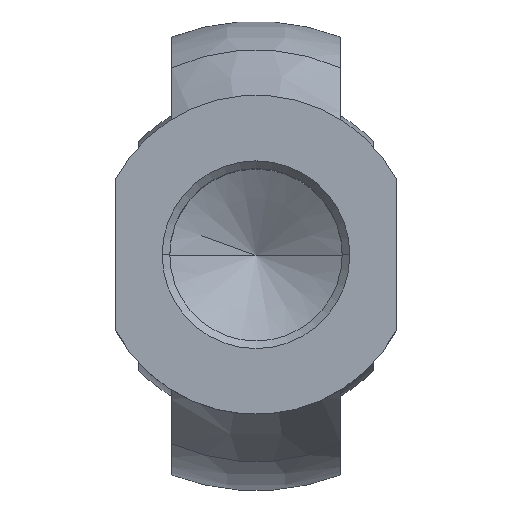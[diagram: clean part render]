
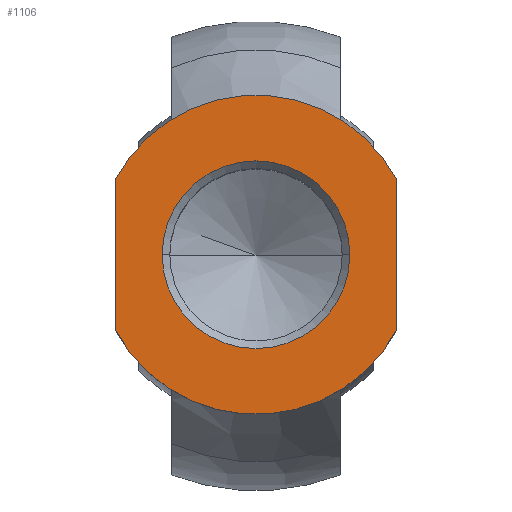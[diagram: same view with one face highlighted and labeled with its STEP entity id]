
A CAD part, top view. The second image highlights one B-rep face of the part: STEP entity #1106.
In plain terms, the highlighted planar face has unit normal (0, 0, 1).
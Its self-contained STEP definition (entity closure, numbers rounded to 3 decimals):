
#265 = CARTESIAN_POINT ( 'NONE',  ( 8.5, 0., 0. ) ) ;
#266 = AXIS2_PLACEMENT_3D ( 'NONE', #265, #315, #314 ) ;
#267 = PLANE ( 'NONE',  #266 ) ;
#282 = FACE_OUTER_BOUND ( 'NONE', #1129, .T. ) ;
#287 = FACE_BOUND ( 'NONE', #1116, .T. ) ;
#291 = CARTESIAN_POINT ( 'NONE',  ( 15., 8., 0. ) ) ;
#292 = DIRECTION ( 'NONE',  ( 0., 1., 0. ) ) ;
#293 = VECTOR ( 'NONE', #292, 1000. ) ;
#294 = CARTESIAN_POINT ( 'NONE',  ( 15., 50., 0. ) ) ;
#296 = LINE ( 'NONE', #294, #293 ) ;
#314 = DIRECTION ( 'NONE',  ( 1., 0., 0. ) ) ;
#315 = DIRECTION ( 'NONE',  ( 0., 0., 1. ) ) ;
#325 = CARTESIAN_POINT ( 'NONE',  ( 15., -8., 0. ) ) ;
#502 = DIRECTION ( 'NONE',  ( 0., 0., -1. ) ) ;
#503 = CARTESIAN_POINT ( 'NONE',  ( 0., 0., 0. ) ) ;
#504 = AXIS2_PLACEMENT_3D ( 'NONE', #503, #502, #555 ) ;
#505 = CIRCLE ( 'NONE', #504, 17. ) ;
#526 = CARTESIAN_POINT ( 'NONE',  ( -15., 8., 0. ) ) ;
#527 = CARTESIAN_POINT ( 'NONE',  ( -15., -8., 0. ) ) ;
#555 = DIRECTION ( 'NONE',  ( 1., 0., 0. ) ) ;
#581 = DIRECTION ( 'NONE',  ( 0., -1., 0. ) ) ;
#582 = VECTOR ( 'NONE', #581, 1000. ) ;
#583 = CARTESIAN_POINT ( 'NONE',  ( -15., 50., 0. ) ) ;
#584 = LINE ( 'NONE', #583, #582 ) ;
#850 = DIRECTION ( 'NONE',  ( 1., 0., 0. ) ) ;
#851 = DIRECTION ( 'NONE',  ( 0., 0., -1. ) ) ;
#852 = CARTESIAN_POINT ( 'NONE',  ( 0., 0., 0. ) ) ;
#853 = AXIS2_PLACEMENT_3D ( 'NONE', #852, #851, #850 ) ;
#854 = CIRCLE ( 'NONE', #853, 10. ) ;
#876 = EDGE_CURVE ( 'NONE', #1480, #1467, #1334, .T. ) ;
#889 = CARTESIAN_POINT ( 'NONE',  ( 10., 0., 0. ) ) ;
#919 = CARTESIAN_POINT ( 'NONE',  ( -10., 0., 0. ) ) ;
#1007 = DIRECTION ( 'NONE',  ( 0., 0., -1. ) ) ;
#1009 = CARTESIAN_POINT ( 'NONE',  ( 0., 0., 0. ) ) ;
#1011 = CIRCLE ( 'NONE', #1012, 17. ) ;
#1012 = AXIS2_PLACEMENT_3D ( 'NONE', #1009, #1007, #1013 ) ;
#1013 = DIRECTION ( 'NONE',  ( 1., 0., 0. ) ) ;
#1094 = EDGE_CURVE ( 'NONE', #1376, #1127, #1011, .T. ) ;
#1095 = ORIENTED_EDGE ( 'NONE', *, *, #1453, .T. ) ;
#1106 = ADVANCED_FACE ( 'NONE', ( #287, #282 ), #267, .T. ) ;
#1113 = ORIENTED_EDGE ( 'NONE', *, *, #1094, .F. ) ;
#1116 = EDGE_LOOP ( 'NONE', ( #1095, #1117 ) ) ;
#1117 = ORIENTED_EDGE ( 'NONE', *, *, #876, .T. ) ;
#1123 = ORIENTED_EDGE ( 'NONE', *, *, #1124, .T. ) ;
#1124 = EDGE_CURVE ( 'NONE', #1128, #1127, #296, .T. ) ;
#1127 = VERTEX_POINT ( 'NONE', #291 ) ;
#1128 = VERTEX_POINT ( 'NONE', #325 ) ;
#1129 = EDGE_LOOP ( 'NONE', ( #1123, #1113, #1374, #1377 ) ) ;
#1333 = AXIS2_PLACEMENT_3D ( 'NONE', #1340, #1339, #1338 ) ;
#1334 = CIRCLE ( 'NONE', #1333, 10. ) ;
#1338 = DIRECTION ( 'NONE',  ( 1., 0., 0. ) ) ;
#1339 = DIRECTION ( 'NONE',  ( 0., 0., -1. ) ) ;
#1340 = CARTESIAN_POINT ( 'NONE',  ( 0., 0., 0. ) ) ;
#1368 = EDGE_CURVE ( 'NONE', #1128, #1373, #505, .T. ) ;
#1373 = VERTEX_POINT ( 'NONE', #527 ) ;
#1374 = ORIENTED_EDGE ( 'NONE', *, *, #1378, .T. ) ;
#1376 = VERTEX_POINT ( 'NONE', #526 ) ;
#1377 = ORIENTED_EDGE ( 'NONE', *, *, #1368, .F. ) ;
#1378 = EDGE_CURVE ( 'NONE', #1376, #1373, #584, .T. ) ;
#1453 = EDGE_CURVE ( 'NONE', #1467, #1480, #854, .T. ) ;
#1467 = VERTEX_POINT ( 'NONE', #889 ) ;
#1480 = VERTEX_POINT ( 'NONE', #919 ) ;
